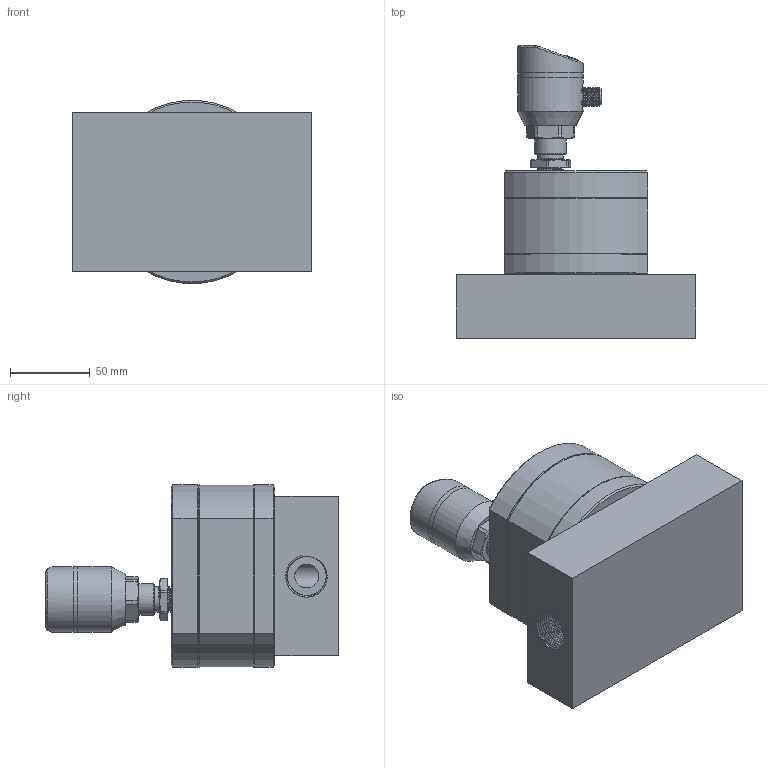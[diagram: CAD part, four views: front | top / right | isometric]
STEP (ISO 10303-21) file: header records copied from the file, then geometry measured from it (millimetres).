
FILE_DESCRIPTION( (''), '2;1');
FILE_NAME( 'QZKB_50L_M15_mounting-plate.step', '2025-05-06T15:26:24+08:00', (''), (''), '', '', '');
FILE_SCHEMA (('AUTOMOTIVE_DESIGN { 1 0 10303 214 3 1 1 1 }'));
Products named in the file (1): QZKB 50L_M15_mounting-plate
Bounding box: 150 x 183.8 x 114.62 mm (x, y, z)
Volume: 1172470.6 mm3; surface area: 215371.8 mm2
Topology: 21 solids, 22 shells, 932 faces, 2077 edges, 1253 vertices
Faces by surface type: plane 375, cylinder 246, cone 186, torus 63, bspline 52, sphere 6, extrusion 4
Full cylindrical faces by diameter (mm): 1 x5, 2.7 x4, 6 x12, 6.8 x12, 7.76 x12, 8.4 x1, 9 x28, 9.7 x1, 9.8 x1, 10.1 x1, 11.6 x1, 12 x2, 13 x12, 14 x12, 15 x6, 15.9 x1, 17 x1, 20 x3, 23 x3, 26 x4, 26.1 x1, 37 x1, 41 x3
Entity records: 47067 total; most frequent: CARTESIAN_POINT 26369, DIRECTION 3985, ORIENTED_EDGE 3490, EDGE_CURVE 1745, AXIS2_PLACEMENT_3D 1669, EDGE_LOOP 1324, VERTEX_POINT 1183, ADVANCED_FACE 930
